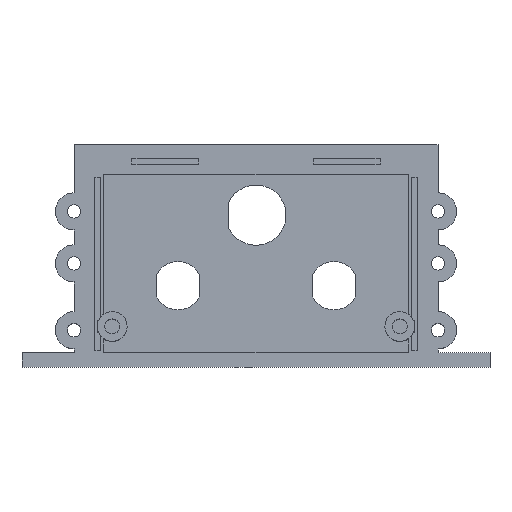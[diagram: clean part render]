
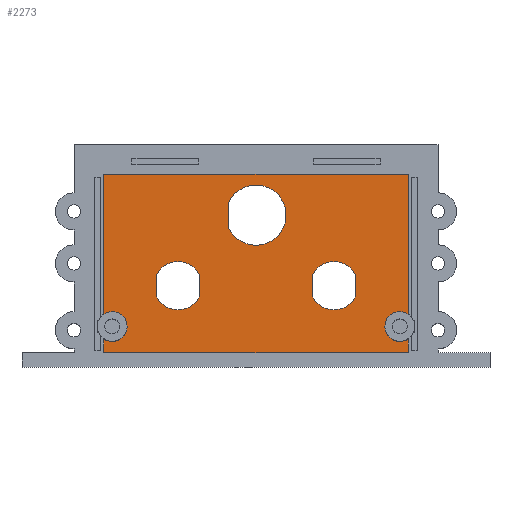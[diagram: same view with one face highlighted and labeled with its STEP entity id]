
A CAD part, top view. The second image highlights one B-rep face of the part: STEP entity #2273.
In plain terms, the highlighted planar face has unit normal (0, 0, 1).
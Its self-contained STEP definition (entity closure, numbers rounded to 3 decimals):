
#1185 = VERTEX_POINT('',#1186);
#1186 = CARTESIAN_POINT('',(55.7,44.51,3.));
#1192 = EDGE_CURVE('',#1185,#1193,#1195,.T.);
#1193 = VERTEX_POINT('',#1194);
#1194 = CARTESIAN_POINT('',(55.7,37.49,3.));
#1195 = CIRCLE('',#1196,8.1);
#1196 = AXIS2_PLACEMENT_3D('',#1197,#1198,#1199);
#1197 = CARTESIAN_POINT('',(63.,41.,3.));
#1198 = DIRECTION('',(0.,0.,-1.));
#1199 = DIRECTION('',(0.,-1.,0.));
#1217 = EDGE_CURVE('',#1185,#1193,#1218,.T.);
#1218 = LINE('',#1219,#1220);
#1219 = CARTESIAN_POINT('',(55.7,55.05,3.));
#1220 = VECTOR('',#1221,1.);
#1221 = DIRECTION('',(0.,-1.,0.));
#1268 = VERTEX_POINT('',#1269);
#1269 = CARTESIAN_POINT('',(89.9,24.728,3.));
#1275 = EDGE_CURVE('',#1268,#1276,#1278,.T.);
#1276 = VERTEX_POINT('',#1277);
#1277 = CARTESIAN_POINT('',(89.9,19.272,3.));
#1278 = LINE('',#1279,#1280);
#1279 = CARTESIAN_POINT('',(89.9,44.75,3.));
#1280 = VECTOR('',#1281,1.);
#1281 = DIRECTION('',(0.,-1.,0.));
#1297 = EDGE_CURVE('',#1276,#1298,#1300,.T.);
#1298 = VERTEX_POINT('',#1299);
#1299 = CARTESIAN_POINT('',(78.1,19.272,3.));
#1300 = CIRCLE('',#1301,6.5);
#1301 = AXIS2_PLACEMENT_3D('',#1302,#1303,#1304);
#1302 = CARTESIAN_POINT('',(84.,22.,3.));
#1303 = DIRECTION('',(0.,0.,-1.));
#1304 = DIRECTION('',(0.,-1.,0.));
#1324 = VERTEX_POINT('',#1325);
#1325 = CARTESIAN_POINT('',(78.1,24.728,3.));
#1331 = EDGE_CURVE('',#1324,#1298,#1332,.T.);
#1332 = LINE('',#1333,#1334);
#1333 = CARTESIAN_POINT('',(78.1,44.75,3.));
#1334 = VECTOR('',#1335,1.);
#1335 = DIRECTION('',(0.,-1.,0.));
#1348 = EDGE_CURVE('',#1324,#1268,#1349,.T.);
#1349 = CIRCLE('',#1350,6.5);
#1350 = AXIS2_PLACEMENT_3D('',#1351,#1352,#1353);
#1351 = CARTESIAN_POINT('',(84.,22.,3.));
#1352 = DIRECTION('',(0.,0.,-1.));
#1353 = DIRECTION('',(0.,-1.,0.));
#1383 = VERTEX_POINT('',#1384);
#1384 = CARTESIAN_POINT('',(47.9,24.728,3.));
#1390 = EDGE_CURVE('',#1383,#1391,#1393,.T.);
#1391 = VERTEX_POINT('',#1392);
#1392 = CARTESIAN_POINT('',(47.9,19.272,3.));
#1393 = LINE('',#1394,#1395);
#1394 = CARTESIAN_POINT('',(47.9,44.75,3.));
#1395 = VECTOR('',#1396,1.);
#1396 = DIRECTION('',(0.,-1.,0.));
#1412 = EDGE_CURVE('',#1391,#1413,#1415,.T.);
#1413 = VERTEX_POINT('',#1414);
#1414 = CARTESIAN_POINT('',(36.1,19.272,3.));
#1415 = CIRCLE('',#1416,6.5);
#1416 = AXIS2_PLACEMENT_3D('',#1417,#1418,#1419);
#1417 = CARTESIAN_POINT('',(42.,22.,3.));
#1418 = DIRECTION('',(0.,0.,-1.));
#1419 = DIRECTION('',(0.,-1.,0.));
#1439 = VERTEX_POINT('',#1440);
#1440 = CARTESIAN_POINT('',(36.1,24.728,3.));
#1446 = EDGE_CURVE('',#1439,#1413,#1447,.T.);
#1447 = LINE('',#1448,#1449);
#1448 = CARTESIAN_POINT('',(36.1,44.75,3.));
#1449 = VECTOR('',#1450,1.);
#1450 = DIRECTION('',(0.,-1.,0.));
#1463 = EDGE_CURVE('',#1439,#1383,#1464,.T.);
#1464 = CIRCLE('',#1465,6.5);
#1465 = AXIS2_PLACEMENT_3D('',#1466,#1467,#1468);
#1466 = CARTESIAN_POINT('',(42.,22.,3.));
#1467 = DIRECTION('',(0.,0.,-1.));
#1468 = DIRECTION('',(0.,-1.,0.));
#1514 = VERTEX_POINT('',#1515);
#1515 = CARTESIAN_POINT('',(22.,7.727,3.));
#1523 = VERTEX_POINT('',#1524);
#1524 = CARTESIAN_POINT('',(22.,4.,3.));
#1530 = EDGE_CURVE('',#1514,#1523,#1531,.T.);
#1531 = LINE('',#1532,#1533);
#1532 = CARTESIAN_POINT('',(22.,60.,3.));
#1533 = VECTOR('',#1534,1.);
#1534 = DIRECTION('',(0.,-1.,0.));
#1544 = EDGE_CURVE('',#1545,#1547,#1549,.T.);
#1545 = VERTEX_POINT('',#1546);
#1546 = CARTESIAN_POINT('',(24.3,15.,3.));
#1547 = VERTEX_POINT('',#1548);
#1548 = CARTESIAN_POINT('',(22.,14.273,3.));
#1549 = CIRCLE('',#1550,4.);
#1550 = AXIS2_PLACEMENT_3D('',#1551,#1552,#1553);
#1551 = CARTESIAN_POINT('',(24.3,11.,3.));
#1552 = DIRECTION('',(0.,0.,1.));
#1553 = DIRECTION('',(0.,1.,0.));
#1630 = EDGE_CURVE('',#1514,#1545,#1631,.T.);
#1631 = CIRCLE('',#1632,4.);
#1632 = AXIS2_PLACEMENT_3D('',#1633,#1634,#1635);
#1633 = CARTESIAN_POINT('',(24.3,11.,3.));
#1634 = DIRECTION('',(0.,0.,1.));
#1635 = DIRECTION('',(0.,1.,0.));
#1647 = EDGE_CURVE('',#1648,#1523,#1650,.T.);
#1648 = VERTEX_POINT('',#1649);
#1649 = CARTESIAN_POINT('',(104.,4.,3.));
#1650 = LINE('',#1651,#1652);
#1651 = CARTESIAN_POINT('',(7.,4.,3.));
#1652 = VECTOR('',#1653,1.);
#1653 = DIRECTION('',(-1.,0.,-0.));
#1694 = VERTEX_POINT('',#1695);
#1695 = CARTESIAN_POINT('',(104.,7.727,3.));
#1703 = EDGE_CURVE('',#1694,#1648,#1704,.T.);
#1704 = LINE('',#1705,#1706);
#1705 = CARTESIAN_POINT('',(104.,60.,3.));
#1706 = VECTOR('',#1707,1.);
#1707 = DIRECTION('',(0.,-1.,0.));
#1777 = VERTEX_POINT('',#1778);
#1778 = CARTESIAN_POINT('',(104.,14.273,3.));
#1784 = EDGE_CURVE('',#1777,#1785,#1787,.T.);
#1785 = VERTEX_POINT('',#1786);
#1786 = CARTESIAN_POINT('',(101.7,15.,3.));
#1787 = CIRCLE('',#1788,4.);
#1788 = AXIS2_PLACEMENT_3D('',#1789,#1790,#1791);
#1789 = CARTESIAN_POINT('',(101.7,11.,3.));
#1790 = DIRECTION('',(0.,0.,1.));
#1791 = DIRECTION('',(0.,1.,0.));
#1793 = EDGE_CURVE('',#1785,#1694,#1794,.T.);
#1794 = CIRCLE('',#1795,4.);
#1795 = AXIS2_PLACEMENT_3D('',#1796,#1797,#1798);
#1796 = CARTESIAN_POINT('',(101.7,11.,3.));
#1797 = DIRECTION('',(0.,0.,1.));
#1798 = DIRECTION('',(0.,1.,0.));
#2004 = VERTEX_POINT('',#2005);
#2005 = CARTESIAN_POINT('',(22.,52.,3.));
#2013 = EDGE_CURVE('',#2004,#1547,#2014,.T.);
#2014 = LINE('',#2015,#2016);
#2015 = CARTESIAN_POINT('',(22.,60.,3.));
#2016 = VECTOR('',#2017,1.);
#2017 = DIRECTION('',(0.,-1.,0.));
#2046 = EDGE_CURVE('',#2047,#2004,#2049,.T.);
#2047 = VERTEX_POINT('',#2048);
#2048 = CARTESIAN_POINT('',(104.,52.,3.));
#2049 = LINE('',#2050,#2051);
#2050 = CARTESIAN_POINT('',(14.,52.,3.));
#2051 = VECTOR('',#2052,1.);
#2052 = DIRECTION('',(-1.,0.,-0.));
#2071 = EDGE_CURVE('',#2047,#1777,#2072,.T.);
#2072 = LINE('',#2073,#2074);
#2073 = CARTESIAN_POINT('',(104.,60.,3.));
#2074 = VECTOR('',#2075,1.);
#2075 = DIRECTION('',(0.,-1.,0.));
#2273 = ADVANCED_FACE('',(#2274,#2286,#2290,#2296),#2302,.F.);
#2274 = FACE_BOUND('',#2275,.F.);
#2275 = EDGE_LOOP('',(#2276,#2277,#2278,#2279,#2280,#2281,#2282,#2283,
    #2284,#2285));
#2276 = ORIENTED_EDGE('',*,*,#2013,.F.);
#2277 = ORIENTED_EDGE('',*,*,#2046,.F.);
#2278 = ORIENTED_EDGE('',*,*,#2071,.T.);
#2279 = ORIENTED_EDGE('',*,*,#1784,.T.);
#2280 = ORIENTED_EDGE('',*,*,#1793,.T.);
#2281 = ORIENTED_EDGE('',*,*,#1703,.T.);
#2282 = ORIENTED_EDGE('',*,*,#1647,.T.);
#2283 = ORIENTED_EDGE('',*,*,#1530,.F.);
#2284 = ORIENTED_EDGE('',*,*,#1630,.T.);
#2285 = ORIENTED_EDGE('',*,*,#1544,.T.);
#2286 = FACE_BOUND('',#2287,.F.);
#2287 = EDGE_LOOP('',(#2288,#2289));
#2288 = ORIENTED_EDGE('',*,*,#1192,.F.);
#2289 = ORIENTED_EDGE('',*,*,#1217,.T.);
#2290 = FACE_BOUND('',#2291,.F.);
#2291 = EDGE_LOOP('',(#2292,#2293,#2294,#2295));
#2292 = ORIENTED_EDGE('',*,*,#1275,.F.);
#2293 = ORIENTED_EDGE('',*,*,#1348,.F.);
#2294 = ORIENTED_EDGE('',*,*,#1331,.T.);
#2295 = ORIENTED_EDGE('',*,*,#1297,.F.);
#2296 = FACE_BOUND('',#2297,.F.);
#2297 = EDGE_LOOP('',(#2298,#2299,#2300,#2301));
#2298 = ORIENTED_EDGE('',*,*,#1390,.F.);
#2299 = ORIENTED_EDGE('',*,*,#1463,.F.);
#2300 = ORIENTED_EDGE('',*,*,#1446,.T.);
#2301 = ORIENTED_EDGE('',*,*,#1412,.F.);
#2302 = PLANE('',#2303);
#2303 = AXIS2_PLACEMENT_3D('',#2304,#2305,#2306);
#2304 = CARTESIAN_POINT('',(14.,60.,3.));
#2305 = DIRECTION('',(0.,0.,-1.));
#2306 = DIRECTION('',(0.,-1.,0.));
